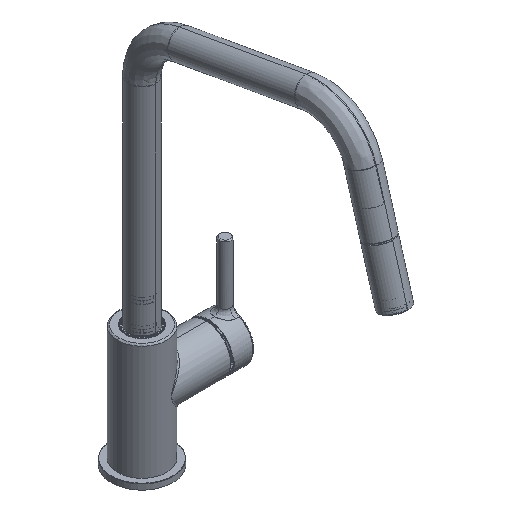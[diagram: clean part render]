
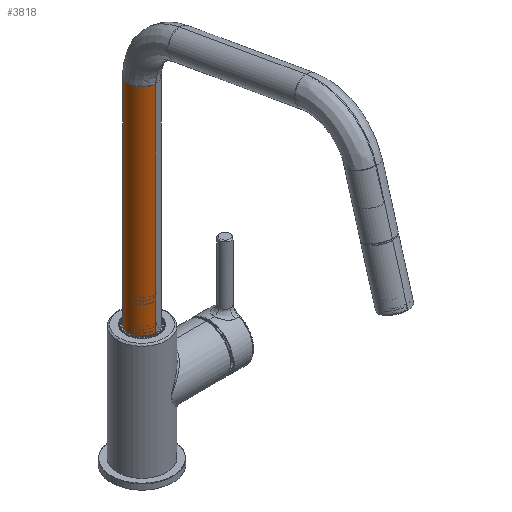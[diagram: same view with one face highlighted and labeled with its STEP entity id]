
A CAD part, isometric view. The second image highlights one B-rep face of the part: STEP entity #3818.
In plain terms, the highlighted cylindrical face has radius 12 mm (diameter 24 mm), a partial arc.
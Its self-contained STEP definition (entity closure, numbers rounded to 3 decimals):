
#3818=ADVANCED_FACE('',(#6913),#56444,.T.);
#6913=FACE_OUTER_BOUND('',#11277,.T.);
#11277=EDGE_LOOP('',(#25354,#25355,#25356,#25357,#25358,#25359));
#25354=ORIENTED_EDGE('',*,*,#36039,.T.);
#25355=ORIENTED_EDGE('',*,*,#36038,.T.);
#25356=ORIENTED_EDGE('',*,*,#36037,.T.);
#25357=ORIENTED_EDGE('',*,*,#36036,.T.);
#25358=ORIENTED_EDGE('',*,*,#36035,.T.);
#25359=ORIENTED_EDGE('',*,*,#36034,.T.);
#36034=EDGE_CURVE('',#52279,#52277,#46571,.T.);
#36035=EDGE_CURVE('',#52280,#52279,#38615,.T.);
#36036=EDGE_CURVE('',#52274,#52280,#46572,.T.);
#36037=EDGE_CURVE('',#52273,#52274,#38616,.T.);
#36038=EDGE_CURVE('',#52278,#52273,#46573,.T.);
#36039=EDGE_CURVE('',#52277,#52278,#46574,.T.);
#38615=TRIMMED_CURVE($,#39806,(#126932),(#126933),.T.,.CARTESIAN.);
#38616=TRIMMED_CURVE($,#39807,(#126937),(#126938),.T.,.CARTESIAN.);
#39806=CIRCLE('',#60874,12.);
#39807=CIRCLE('',#60875,12.);
#46571=B_SPLINE_CURVE_WITH_KNOTS('',1,(#126929,#126930),.UNSPECIFIED.,.F.,
 .F.,(2,2),(-171.6,0.),.UNSPECIFIED.);
#46572=B_SPLINE_CURVE_WITH_KNOTS('',1,(#126934,#126935),.UNSPECIFIED.,.F.,
 .F.,(2,2),(-189.5,0.),.UNSPECIFIED.);
#46573=B_SPLINE_CURVE_WITH_KNOTS('',1,(#126939,#126940),.UNSPECIFIED.,.F.,
 .F.,(2,2),(-14.7,0.),.UNSPECIFIED.);
#46574=B_SPLINE_CURVE_WITH_KNOTS('',3,(#126941,#126942,#126943,#126944,
#126945,#126946,#126947,#126948,#126949,#126950,#126951,#126952,#126953,
#126954,#126955,#126956,#126957,#126958,#126959,#126960,#126961,#126962,
#126963,#126964,#126965,#126966,#126967,#126968,#126969,#126970,#126971,
#126972,#126973,#126974,#126975,#126976,#126977,#126978,#126979,#126980,
#126981,#126982,#126983,#126984,#126985,#126986,#126987,#126988,#126989),
 .UNSPECIFIED.,.F.,.F.,(4,1,1,1,1,1,1,1,1,1,1,1,1,1,1,1,1,1,1,1,1,1,1,1,
1,1,1,1,1,1,1,1,1,1,1,1,1,1,1,1,1,1,1,1,1,1,4),(0.,0.109,0.219,
0.328,0.438,0.547,0.657,
0.766,0.876,0.985,1.095,1.204,
1.314,1.423,1.532,1.642,1.751,
1.861,1.97,2.08,2.189,2.299,
2.408,2.518,2.627,2.736,2.846,
2.955,3.065,3.174,3.284,3.393,
3.503,3.612,3.722,3.831,3.941,
4.05,4.159,4.269,4.378,4.488,
4.597,4.707,4.816,4.926,5.035),
 .UNSPECIFIED.);
#52273=VERTEX_POINT('',#126893);
#52274=VERTEX_POINT('',#126894);
#52277=VERTEX_POINT('',#126897);
#52278=VERTEX_POINT('',#126898);
#52279=VERTEX_POINT('',#126899);
#52280=VERTEX_POINT('',#126900);
#56444=CYLINDRICAL_SURFACE('',#60857,12.);
#60857=AXIS2_PLACEMENT_3D('',#126120,#65352,$);
#60874=AXIS2_PLACEMENT_3D($,#126931,#65369,#65370);
#60875=AXIS2_PLACEMENT_3D($,#126936,#65371,#65372);
#65352=DIRECTION('',(0.,1.,0.));
#65369=DIRECTION('',(0.,-1.,0.));
#65370=DIRECTION('',(1.,0.,0.));
#65371=DIRECTION('',(0.,1.,0.));
#65372=DIRECTION('',(-1.,0.,0.));
#126120=CARTESIAN_POINT('',(0.,94.75,0.));
#126893=CARTESIAN_POINT('',(-12.,0.,0.));
#126894=CARTESIAN_POINT('',(12.,0.,0.));
#126897=CARTESIAN_POINT('',(-12.,17.9,0.));
#126898=CARTESIAN_POINT('',(-12.,14.7,0.));
#126899=CARTESIAN_POINT('',(-12.,189.5,0.));
#126900=CARTESIAN_POINT('',(12.,189.5,0.));
#126929=CARTESIAN_POINT('',(-12.,189.5,0.));
#126930=CARTESIAN_POINT('',(-12.,17.9,0.));
#126931=CARTESIAN_POINT('',(0.,189.5,0.));
#126932=CARTESIAN_POINT('',(12.,189.5,0.));
#126933=CARTESIAN_POINT('',(-12.,189.5,0.));
#126934=CARTESIAN_POINT('',(12.,0.,0.));
#126935=CARTESIAN_POINT('',(12.,189.5,0.));
#126936=CARTESIAN_POINT('',(0.,0.,0.));
#126937=CARTESIAN_POINT('',(-12.,0.,0.));
#126938=CARTESIAN_POINT('',(12.,0.,0.));
#126939=CARTESIAN_POINT('',(-12.,14.7,0.));
#126940=CARTESIAN_POINT('',(-12.,0.,0.));
#126941=CARTESIAN_POINT('',(-12.,17.9,0.));
#126942=CARTESIAN_POINT('',(-12.,17.9,0.036));
#126943=CARTESIAN_POINT('',(-12.,17.898,0.109));
#126944=CARTESIAN_POINT('',(-11.998,17.886,0.217));
#126945=CARTESIAN_POINT('',(-11.996,17.868,0.325));
#126946=CARTESIAN_POINT('',(-11.992,17.842,0.431));
#126947=CARTESIAN_POINT('',(-11.988,17.809,0.535));
#126948=CARTESIAN_POINT('',(-11.983,17.769,0.637));
#126949=CARTESIAN_POINT('',(-11.978,17.722,0.735));
#126950=CARTESIAN_POINT('',(-11.971,17.669,0.831));
#126951=CARTESIAN_POINT('',(-11.965,17.609,0.923));
#126952=CARTESIAN_POINT('',(-11.958,17.543,1.01));
#126953=CARTESIAN_POINT('',(-11.95,17.47,1.093));
#126954=CARTESIAN_POINT('',(-11.943,17.393,1.17));
#126955=CARTESIAN_POINT('',(-11.936,17.31,1.243));
#126956=CARTESIAN_POINT('',(-11.928,17.223,1.309));
#126957=CARTESIAN_POINT('',(-11.922,17.131,1.369));
#126958=CARTESIAN_POINT('',(-11.915,17.035,1.422));
#126959=CARTESIAN_POINT('',(-11.91,16.937,1.469));
#126960=CARTESIAN_POINT('',(-11.905,16.835,1.509));
#126961=CARTESIAN_POINT('',(-11.9,16.731,1.542));
#126962=CARTESIAN_POINT('',(-11.897,16.625,1.568));
#126963=CARTESIAN_POINT('',(-11.895,16.517,1.586));
#126964=CARTESIAN_POINT('',(-11.893,16.409,1.598));
#126965=CARTESIAN_POINT('',(-11.893,16.3,1.601));
#126966=CARTESIAN_POINT('',(-11.893,16.191,1.598));
#126967=CARTESIAN_POINT('',(-11.895,16.083,1.586));
#126968=CARTESIAN_POINT('',(-11.897,15.975,1.568));
#126969=CARTESIAN_POINT('',(-11.9,15.869,1.542));
#126970=CARTESIAN_POINT('',(-11.905,15.765,1.509));
#126971=CARTESIAN_POINT('',(-11.91,15.663,1.469));
#126972=CARTESIAN_POINT('',(-11.915,15.565,1.422));
#126973=CARTESIAN_POINT('',(-11.922,15.469,1.369));
#126974=CARTESIAN_POINT('',(-11.928,15.377,1.309));
#126975=CARTESIAN_POINT('',(-11.936,15.29,1.243));
#126976=CARTESIAN_POINT('',(-11.943,15.207,1.17));
#126977=CARTESIAN_POINT('',(-11.95,15.13,1.093));
#126978=CARTESIAN_POINT('',(-11.958,15.057,1.01));
#126979=CARTESIAN_POINT('',(-11.965,14.991,0.923));
#126980=CARTESIAN_POINT('',(-11.971,14.931,0.831));
#126981=CARTESIAN_POINT('',(-11.978,14.878,0.735));
#126982=CARTESIAN_POINT('',(-11.983,14.831,0.637));
#126983=CARTESIAN_POINT('',(-11.988,14.791,0.535));
#126984=CARTESIAN_POINT('',(-11.992,14.758,0.431));
#126985=CARTESIAN_POINT('',(-11.996,14.732,0.325));
#126986=CARTESIAN_POINT('',(-11.998,14.714,0.217));
#126987=CARTESIAN_POINT('',(-12.,14.702,0.109));
#126988=CARTESIAN_POINT('',(-12.,14.7,0.036));
#126989=CARTESIAN_POINT('',(-12.,14.7,0.));
